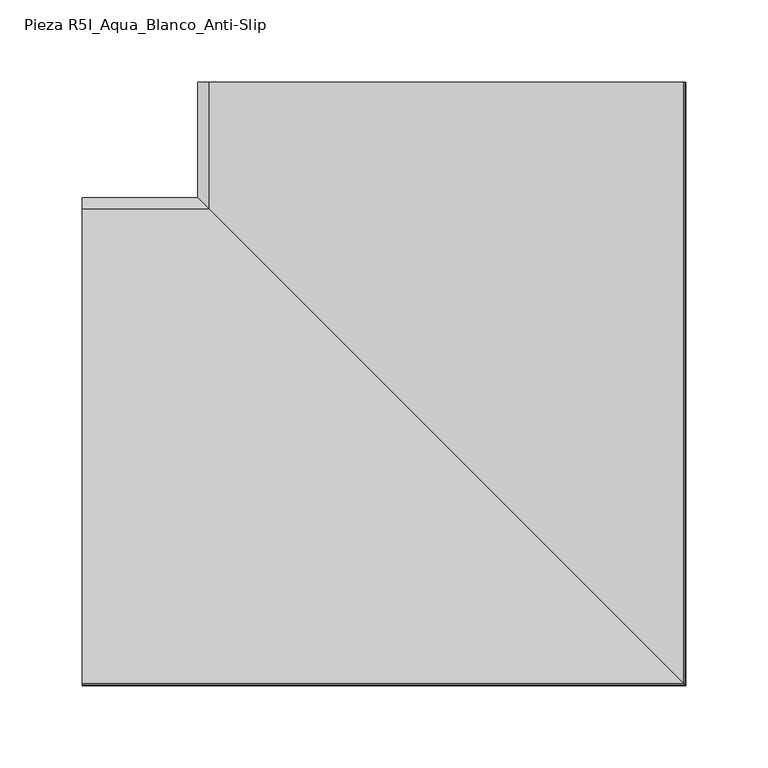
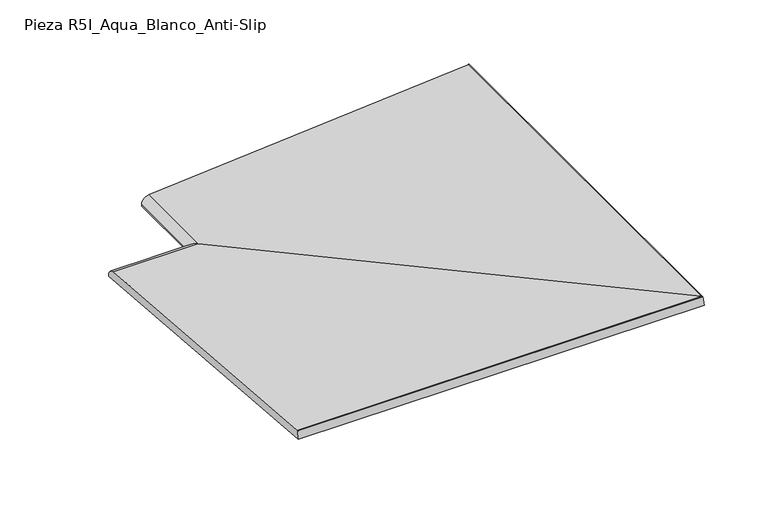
"""IFC4 building model written with IfcOpenShell, lengths in millimetres: proxy geometry, ROSA GRES_R5I : Pieza R5I_Aqua_Blanco_Anti-Slip."""

from ifc_helpers import new_model, si_unit, frame, origin, place, context, project, spatial, circle_curve, ellipse_curve, source, transform, mapped, element, save
from ifc_brep_helpers import plane_surface, cylinder_surface, advanced_brep


def pieza_r5i_aqua_blanco_anti_slip_8b49d6c0(model_context):
    return source(origin(), model_context, "Body", "AdvancedBrep", [
        advanced_brep(
        [(70.1539646, -70.1539646, 196.3880826), (0.0, -70.1539646, 196.3880826), (0.0, -70.0315861, 197.89159), (70.0315861, -70.0315861, 197.89159), (0.0, -76.6234074, 204.9411222), (76.6234074, -76.6234074, 204.9411222), (0.0, -364.6716123, 228.3869063), (364.6716123, -364.6716123, 228.3869063), (0.0, -365.5494776, 228.1676059), (365.5494776, -365.5494776, 228.1676059), (0.0, -366.1749837, 220.4828167), (366.1749837, -366.1749837, 220.4828167), (70.0315861, 0.0, 197.89159), (70.1539646, 0.0, 196.3880826), (76.6234074, 0.0, 204.9411222), (364.6716123, 0.0, 228.3869063), (365.5494776, 0.0, 228.1676059), (366.1749837, 0.0, 220.4828167)],
        [
            (0, 1),
            (1, 2),
            (2, 3),
            (3, 0),
            (2, 4, circle_curve(frame((0.0, -77.8482549, 197.189121), z_axis=(1.0, 0.0, 0.0), x_axis=(0.0, 1.0, 0.0)), 7.8481701)),
            (4, 5),
            (5, 3, ellipse_curve(frame((77.8482549, -77.8482549, 197.189121), z_axis=(-0.7071067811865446, -0.7071067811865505, 0.0), x_axis=(-0.7071067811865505, 0.7071067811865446, 0.0)), 11.0989886, 7.8481701)),
            (4, 6),
            (6, 7),
            (7, 5),
            (6, 8, circle_curve(frame((0.0, -364.7862135, 226.9789488), z_axis=(1.0, 0.0, 0.0), x_axis=(0.0, 1.0, 0.0)), 1.4126139)),
            (8, 9),
            (9, 7, ellipse_curve(frame((364.7862135, -364.7862135, 226.9789488), z_axis=(-0.7071067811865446, -0.7071067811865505, 0.0), x_axis=(-0.7071067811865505, 0.7071067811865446, 0.0)), 1.9977377, 1.4126139)),
            (8, 10),
            (10, 11),
            (11, 9),
            (10, 1),
            (0, 11),
            (3, 12),
            (12, 13),
            (13, 0),
            (5, 14),
            (14, 12, circle_curve(frame((77.8482549, 0.0, 197.189121), z_axis=(0.0, -1.0, 0.0), x_axis=(-1.0, 0.0, 0.0)), 7.8481701)),
            (7, 15),
            (15, 14),
            (9, 16),
            (16, 15, circle_curve(frame((364.7862135, 0.0, 226.9789488), z_axis=(0.0, -1.0, 0.0), x_axis=(-1.0, 0.0, 0.0)), 1.4126139)),
            (11, 17),
            (17, 16),
            (13, 17),
        ],
        [
            plane_surface(frame((-4.5, -70.1539646, 196.3880826), z_axis=(0.0, 0.996703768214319, -0.08112705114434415), x_axis=(1.0, 0.0, 0.0))),
            cylinder_surface(frame((-4.5, -77.8482549, 197.189121), z_axis=(-1.0, 0.0, 0.0), x_axis=(0.0, 1.0, 0.0)), 7.8481701),
            plane_surface(frame((-4.5, -76.6234074, 204.9411222), z_axis=(0.0, 0.08112705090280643, 0.9967037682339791), x_axis=(1.0, 0.0, 0.0))),
            cylinder_surface(frame((-4.5, -364.7862135, 226.9789488), z_axis=(-1.0, 0.0, 0.0), x_axis=(0.0, 1.0, 0.0)), 1.4126139),
            plane_surface(frame((-4.5, -365.5494776, 228.1676059), z_axis=(0.0, -0.9967037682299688, 0.08112705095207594), x_axis=(1.0, 0.0, 0.0))),
            plane_surface(frame((-4.5, -366.1749837, 220.4828167), z_axis=(0.0, -0.08112705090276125, -0.9967037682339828), x_axis=(1.0, 0.0, 0.0))),
            plane_surface(frame((70.1539646, -70.1539646, 196.3880826), z_axis=(-0.996703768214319, 0.0, -0.08112705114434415), x_axis=(0.0, 1.0, 0.0))),
            cylinder_surface(frame((77.8482549, 0.0, 197.189121), z_axis=(0.0, -1.0, 0.0), x_axis=(-1.0, 0.0, 0.0)), 7.8481701),
            plane_surface(frame((76.6234074, -76.6234074, 204.9411222), z_axis=(-0.08112705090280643, 0.0, 0.9967037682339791), x_axis=(0.0, 1.0, 0.0))),
            cylinder_surface(frame((364.7862135, 0.0, 226.9789488), z_axis=(0.0, -1.0, 0.0), x_axis=(-1.0, 0.0, 0.0)), 1.4126139),
            plane_surface(frame((365.5494776, -365.5494776, 228.1676059), z_axis=(0.9967037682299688, 0.0, 0.08112705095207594), x_axis=(0.0, 1.0, 0.0))),
            plane_surface(frame((366.1749837, -366.1749837, 220.4828167), z_axis=(0.08112705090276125, 0.0, -0.9967037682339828), x_axis=(0.0, 1.0, 0.0))),
            plane_surface(frame((0.0, -60.7522831, 234.3997989), z_axis=(-1.0, 0.0, 0.0), x_axis=(0.0, 0.0, -1.0))),
            plane_surface(frame((376.8848139, 0.0, 234.3997989), z_axis=(0.0, 1.0, 0.0), x_axis=(0.0, 0.0, -1.0))),
        ],
        [
            (0, [[1, 2, 3, 4]]),
            (1, [[-3, 5, 6, 7]]),
            (2, [[-6, 8, 9, 10]]),
            (3, [[-9, 11, 12, 13]]),
            (4, [[-12, 14, 15, 16]]),
            (5, [[-15, 17, -1, 18]]),
            (6, [[19, 20, 21, -4]]),
            (7, [[22, 23, -19, -7]]),
            (8, [[24, 25, -22, -10]]),
            (9, [[26, 27, -24, -13]]),
            (10, [[28, 29, -26, -16]]),
            (11, [[-21, 30, -28, -18]]),
            (12, [[-17, -14, -11, -8, -5, -2]]),
            (13, [[-23, -25, -27, -29, -30, -20]]),
        ],
    ),
    ])


if __name__ == "__main__":
    model = new_model("IFC4")
    model_context = context("Model", 3, world=origin())
    ifc_project = project(units=[si_unit("LENGTHUNIT", "METRE", prefix="MILLI")], contexts=[model_context])
    site = spatial("IfcSite", under=ifc_project)
    building = spatial("IfcBuilding", under=site)
    placement = place(None, origin())
    pieza_r5i_aqua_blanco_anti_slip_shape = pieza_r5i_aqua_blanco_anti_slip_8b49d6c0(model_context)
    element("IfcBuildingElementProxy", 1, Name="ROSA GRES_R5I : Pieza R5I_Aqua_Blanco_Anti-Slip", ObjectType="ROSA GRES_R5I : Pieza R5I_Aqua_Blanco_Anti-Slip", at=placement, inside=building, context=model_context, shape_type="MappedRepresentation", body=[
        mapped(pieza_r5i_aqua_blanco_anti_slip_shape, transform((0.0, 0.0, 0.0), x_axis=(1.0, 0.0, 0.0), y_axis=(0.0, 1.0, 0.0), z_axis=(0.0, 0.0, 1.0))),
    ])
    save(model, "model.ifc")
